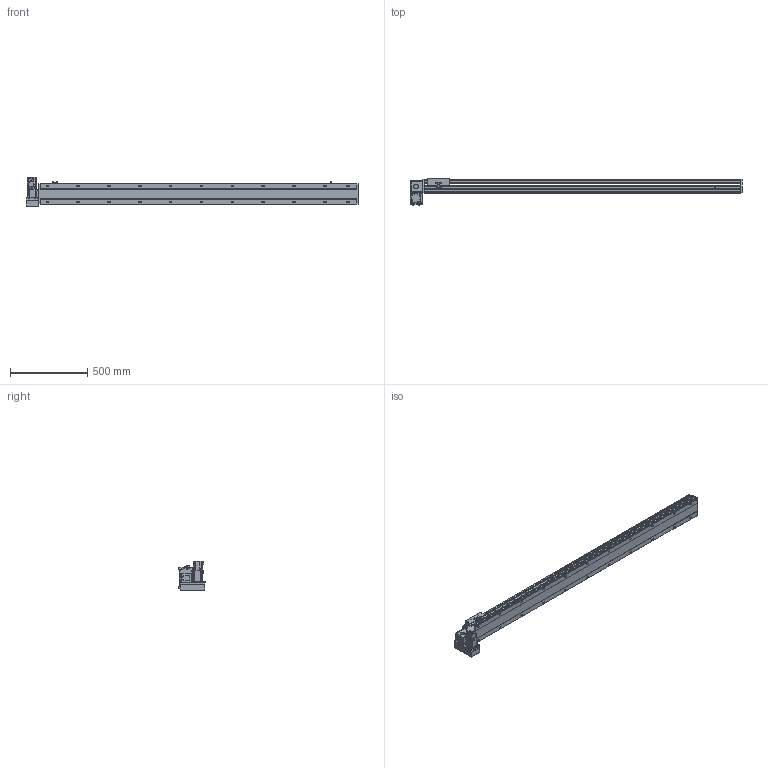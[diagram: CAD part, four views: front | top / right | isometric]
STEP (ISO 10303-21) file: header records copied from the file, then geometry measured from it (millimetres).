
FILE_DESCRIPTION(/* description */ ('STEP AP214'),/* implementation_level */ '2;1');
FILE_NAME(/* name */ 'PBS140S-P40-S1800-LD-T40-C1-N(0)',/* time_stamp */ '2022-06-09T02:25:52+02:00',/* author */ ('License CC BY-ND 4.0'),/* organization */ ('CADENAS'),/* preprocessor_version */ 'ST-DEVELOPER v18.102',/* originating_system */ 'PARTsolutions',/* authorisation */ ' ');
FILE_SCHEMA (('AUTOMOTIVE_DESIGN {1 0 10303 214 3 1 1}'));
Length unit declared in the file: millimetre
Products named in the file (7): PBS140S-P40-S1800-LD-T40-C1-N(0); PBS140S_sensor; PBS140S_plant; PBS140S_sliser; T40-p1; PBS140ST-LD_motors; PBS140S-S1800()_body
Assembly tree (8 placements, depth 2):
  PBS140S-P40-S1800-LD-T40-C1-N(0)
    PBS140S_sensor  x3
    PBS140S_plant
    PBS140S_sliser
    T40-p1
    PBS140ST-LD_motors
    PBS140S-S1800()_body
Bounding box: 2154 x 172.5 x 189.7 mm (x, y, z)
Volume: 10682840.3 mm3; surface area: 1815061.5 mm2
Topology: 8 solids, 8 shells, 1147 faces, 3031 edges, 1983 vertices
Faces by surface type: plane 720, cylinder 369, cone 48, sphere 8, torus 2
Full cylindrical faces by diameter (mm): 3.242 x4, 4 x2, 4.134 x4, 4.4 x8, 4.5 x2, 4.8 x4, 4.917 x30, 5.5 x7, 6 x2, 7 x24, 7.5 x8, 8 x12, 8.5 x4, 10.5 x22, 14 x1, 30 x2, 50 x2
Entity records: 32870 total; most frequent: CARTESIAN_POINT 6152, DIRECTION 5558, ORIENTED_EDGE 5242, EDGE_CURVE 2621, AXIS2_PLACEMENT_3D 1949, VERTEX_POINT 1825, LINE 1660, VECTOR 1660
